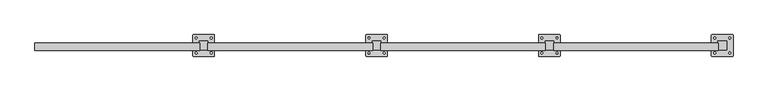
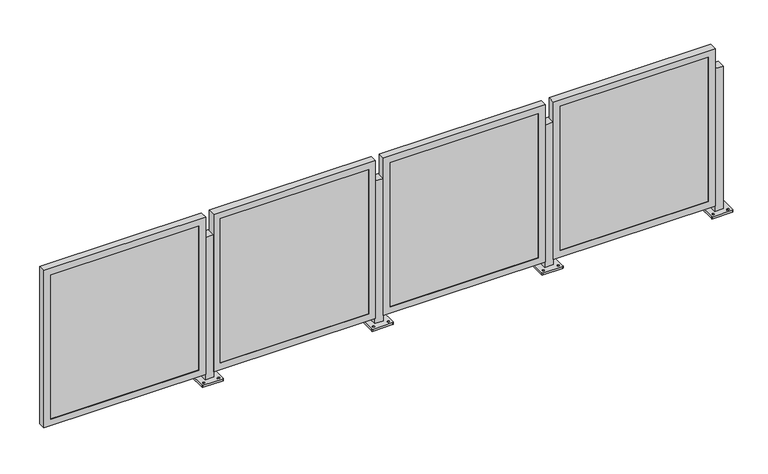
"""IFC4 building model written with IfcOpenShell, lengths in millimetres: railing geometry, Railing - Amico Architectural - Perforated Railing - Apex01."""

from ifc_helpers import new_model, si_unit, frame, origin, place, context, project, spatial, polyline, circle_curve, outline, extrude, faceted_brep, source, transform, mapped, element, save
from ifc_brep_helpers import plane_surface, cylinder_surface, revolved_surface, advanced_brep


def railing_b8a2d812(model_context):
    return source(origin(), model_context, "Body", "SolidModel", [
        advanced_brep(
        [(-22797.8818496, 7784.6872089, 914.4), (-22797.8818496, 7733.8872089, 914.4), (-22747.0818496, 7733.8872089, 914.4), (-22747.0818496, 7784.6872089, 914.4), (-22835.9818498, 7698.9622499, 0.0), (-22835.9818498, 7819.6121679, 0.0), (-22832.8068216, 7822.787196, 0.0), (-22712.1568776, 7822.787196, 0.0), (-22708.9818495, 7819.6121679, 0.0), (-22708.9818495, 7698.9622499, 0.0), (-22712.1568776, 7695.7872218, 0.0), (-22832.8068216, 7695.7872218, 0.0), (-22816.9318372, 7709.2809542, 0.0), (-22816.9318372, 7720.3934667, 0.0), (-22816.9318481, 7798.1809586, 0.0), (-22816.9318481, 7809.2934402, 0.0), (-22728.0318362, 7709.2809558, 0.0), (-22728.0318362, 7720.3934664, 0.0), (-22728.0318471, 7798.1809601, 0.0), (-22728.0318471, 7809.2934399, 0.0), (-22797.8818496, 7784.6872089, 12.7), (-22797.8818496, 7733.8872089, 12.7), (-22747.0818496, 7733.8872089, 12.7), (-22747.0818496, 7784.6872089, 12.7), (-22835.9818498, 7698.9622499, 12.7), (-22832.8068216, 7695.7872218, 12.7), (-22712.1568776, 7695.7872218, 12.7), (-22708.9818495, 7698.9622499, 12.7), (-22708.9818495, 7819.6121679, 12.7), (-22712.1568776, 7822.787196, 12.7), (-22832.8068216, 7822.787196, 12.7), (-22835.9818498, 7819.6121679, 12.7), (-22816.9318372, 7709.2809542, 12.7), (-22816.9318372, 7720.3934667, 12.7), (-22816.9318481, 7798.1809586, 12.7), (-22816.9318481, 7809.2934402, 12.7), (-22728.0318362, 7709.2809558, 12.7), (-22728.0318362, 7720.3934664, 12.7), (-22728.0318471, 7798.1809601, 12.7), (-22728.0318471, 7809.2934399, 12.7)],
        [
            (0, 1),
            (1, 2),
            (2, 3),
            (3, 0),
            (4, 5),
            (5, 6, circle_curve(frame((-22832.8068216, 7819.6121679, 0.0), z_axis=(0.0, 0.0, -1.0), x_axis=(0.0, 1.0, 0.0)), 3.1750282)),
            (6, 7),
            (7, 8, circle_curve(frame((-22712.1568776, 7819.6121679, 0.0), z_axis=(0.0, 0.0, -1.0), x_axis=(0.0, 1.0, 0.0)), 3.1750282)),
            (8, 9),
            (9, 10, circle_curve(frame((-22712.1568776, 7698.9622499, 0.0), z_axis=(0.0, 0.0, -1.0), x_axis=(0.0, 1.0, 0.0)), 3.1750282)),
            (10, 11),
            (11, 4, circle_curve(frame((-22832.8068216, 7698.9622499, 0.0), z_axis=(0.0, 0.0, -1.0), x_axis=(0.0, 1.0, 0.0)), 3.1750282)),
            (12, 13, circle_curve(frame((-22816.9318372, 7714.8372105, 0.0), z_axis=(0.0, 0.0, 1.0), x_axis=(0.0, 1.0, 0.0)), 5.5562562)),
            (13, 12, circle_curve(frame((-22816.9318372, 7714.8372105, 0.0), z_axis=(0.0, 0.0, 1.0), x_axis=(0.0, 1.0, 0.0)), 5.5562562)),
            (14, 15, circle_curve(frame((-22816.9318481, 7803.7371994, 0.0), z_axis=(0.0, 0.0, 1.0), x_axis=(0.0, 1.0, 0.0)), 5.5562408)),
            (15, 14, circle_curve(frame((-22816.9318481, 7803.7371994, 0.0), z_axis=(0.0, 0.0, 1.0), x_axis=(0.0, 1.0, 0.0)), 5.5562408)),
            (16, 17, circle_curve(frame((-22728.0318362, 7714.8372111, 0.0), z_axis=(0.0, 0.0, 1.0), x_axis=(0.0, 1.0, 0.0)), 5.5562553)),
            (17, 16, circle_curve(frame((-22728.0318362, 7714.8372111, 0.0), z_axis=(0.0, 0.0, 1.0), x_axis=(0.0, 1.0, 0.0)), 5.5562553)),
            (18, 19, circle_curve(frame((-22728.0318471, 7803.7372, 0.0), z_axis=(0.0, 0.0, 1.0), x_axis=(0.0, 1.0, 0.0)), 5.5562399)),
            (19, 18, circle_curve(frame((-22728.0318471, 7803.7372, 0.0), z_axis=(0.0, 0.0, 1.0), x_axis=(0.0, 1.0, 0.0)), 5.5562399)),
            (0, 20),
            (20, 21),
            (21, 1),
            (21, 22),
            (22, 2),
            (22, 23),
            (23, 3),
            (23, 20),
            (24, 25, circle_curve(frame((-22832.8068216, 7698.9622499, 12.7), z_axis=(0.0, 0.0, 1.0), x_axis=(0.0, 1.0, 0.0)), 3.1750282)),
            (25, 26),
            (26, 27, circle_curve(frame((-22712.1568776, 7698.9622499, 12.7), z_axis=(0.0, 0.0, 1.0), x_axis=(0.0, 1.0, 0.0)), 3.1750282)),
            (27, 28),
            (28, 29, circle_curve(frame((-22712.1568776, 7819.6121679, 12.7), z_axis=(0.0, 0.0, 1.0), x_axis=(0.0, 1.0, 0.0)), 3.1750282)),
            (29, 30),
            (30, 31, circle_curve(frame((-22832.8068216, 7819.6121679, 12.7), z_axis=(0.0, 0.0, 1.0), x_axis=(0.0, 1.0, 0.0)), 3.1750282)),
            (31, 24),
            (32, 33, circle_curve(frame((-22816.9318372, 7714.8372105, 12.7), z_axis=(0.0, 0.0, -1.0), x_axis=(0.0, 1.0, 0.0)), 5.5562562)),
            (33, 32, circle_curve(frame((-22816.9318372, 7714.8372105, 12.7), z_axis=(0.0, 0.0, -1.0), x_axis=(0.0, 1.0, 0.0)), 5.5562562)),
            (34, 35, circle_curve(frame((-22816.9318481, 7803.7371994, 12.7), z_axis=(0.0, 0.0, -1.0), x_axis=(0.0, 1.0, 0.0)), 5.5562408)),
            (35, 34, circle_curve(frame((-22816.9318481, 7803.7371994, 12.7), z_axis=(0.0, 0.0, -1.0), x_axis=(0.0, 1.0, 0.0)), 5.5562408)),
            (36, 37, circle_curve(frame((-22728.0318362, 7714.8372111, 12.7), z_axis=(0.0, 0.0, -1.0), x_axis=(0.0, 1.0, 0.0)), 5.5562553)),
            (37, 36, circle_curve(frame((-22728.0318362, 7714.8372111, 12.7), z_axis=(0.0, 0.0, -1.0), x_axis=(0.0, 1.0, 0.0)), 5.5562553)),
            (38, 39, circle_curve(frame((-22728.0318471, 7803.7372, 12.7), z_axis=(0.0, 0.0, -1.0), x_axis=(0.0, 1.0, 0.0)), 5.5562399)),
            (39, 38, circle_curve(frame((-22728.0318471, 7803.7372, 12.7), z_axis=(0.0, 0.0, -1.0), x_axis=(0.0, 1.0, 0.0)), 5.5562399)),
            (24, 4),
            (11, 25),
            (10, 26),
            (9, 27),
            (8, 28),
            (7, 29),
            (6, 30),
            (5, 31),
            (32, 12),
            (13, 33),
            (34, 14),
            (15, 35),
            (36, 16),
            (17, 37),
            (38, 18),
            (19, 39),
        ],
        [
            plane_surface(frame((-22797.8818496, 7733.8872089, 914.4), z_axis=(0.0, 0.0, 1.0), x_axis=(0.0, -1.0, 0.0))),
            plane_surface(frame((-22797.8818496, 7733.8872089, 0.0), z_axis=(0.0, 0.0, -1.0), x_axis=(0.0, 1.0, 0.0))),
            plane_surface(frame((-22797.8818496, 7784.6872089, 914.4), z_axis=(-1.0, 0.0, 0.0), x_axis=(0.0, 0.0, -1.0))),
            plane_surface(frame((-22797.8818496, 7733.8872089, 914.4), z_axis=(0.0, -1.0, 0.0), x_axis=(0.0, 0.0, -1.0))),
            plane_surface(frame((-22747.0818496, 7733.8872089, 914.4), z_axis=(1.0, 0.0, 0.0), x_axis=(0.0, 0.0, -1.0))),
            plane_surface(frame((-22747.0818496, 7784.6872089, 914.4), z_axis=(0.0, 1.0, 0.0), x_axis=(0.0, 0.0, -1.0))),
            plane_surface(frame((-22832.8068216, 7702.1372781, 12.7), z_axis=(0.0, 0.0, 1.0), x_axis=(-1.0, 0.0, 0.0))),
            cylinder_surface(frame((-22832.8068216, 7698.9622499, 0.0), z_axis=(0.0, 0.0, 1.0), x_axis=(0.0, 1.0, 0.0)), 3.1750282),
            plane_surface(frame((-22832.8068216, 7695.7872218, 12.7), z_axis=(1.1945386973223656e-12, -1.0, 0.0), x_axis=(0.0, 0.0, -1.0))),
            cylinder_surface(frame((-22712.1568776, 7698.9622499, 0.0), z_axis=(0.0, 0.0, 1.0), x_axis=(0.0, 1.0, 0.0)), 3.1750282),
            plane_surface(frame((-22708.9818495, 7698.9622499, 12.7), z_axis=(1.0, 0.0, 0.0), x_axis=(0.0, 0.0, -1.0))),
            cylinder_surface(frame((-22712.1568776, 7819.6121679, 0.0), z_axis=(0.0, 0.0, 1.0), x_axis=(0.0, 1.0, 0.0)), 3.1750282),
            plane_surface(frame((-22712.1568776, 7822.787196, 12.7), z_axis=(-1.1946088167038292e-12, 1.0, 0.0), x_axis=(0.0, 0.0, -1.0))),
            cylinder_surface(frame((-22832.8068216, 7819.6121679, 0.0), z_axis=(0.0, 0.0, 1.0), x_axis=(0.0, 1.0, 0.0)), 3.1750282),
            plane_surface(frame((-22835.9818498, 7819.6121679, 12.7), z_axis=(-1.0, 0.0, 0.0), x_axis=(0.0, 0.0, -1.0))),
            revolved_surface(polyline([(-22816.9318372, 7720.393466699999, 0.0), (-22816.9318372, 7720.393466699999, 12.7)]), (-22816.9318372, 7714.8372105, 0.0), (0.0, 0.0, -1.0)),
            revolved_surface(polyline([(-22816.9318481, 7809.293440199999, 0.0), (-22816.9318481, 7809.293440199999, 12.7)]), (-22816.9318481, 7803.7371994, 0.0), (0.0, 0.0, -1.0)),
            revolved_surface(polyline([(-22728.0318362, 7720.3934664, 0.0), (-22728.0318362, 7720.3934664, 12.7)]), (-22728.0318362, 7714.8372111, 0.0), (0.0, 0.0, -1.0)),
            revolved_surface(polyline([(-22728.0318471, 7809.2934399, 0.0), (-22728.0318471, 7809.2934399, 12.7)]), (-22728.0318471, 7803.7372, 0.0), (0.0, 0.0, -1.0)),
        ],
        [
            (0, [[1, 2, 3, 4]]),
            (1, [[5, 6, 7, 8, 9, 10, 11, 12], [13, 14], [15, 16], [17, 18], [19, 20]]),
            (2, [[-1, 21, 22, 23]]),
            (3, [[-2, -23, 24, 25]]),
            (4, [[-3, -25, 26, 27]]),
            (5, [[-4, -27, 28, -21]]),
            (6, [[29, 30, 31, 32, 33, 34, 35, 36], [-22, -28, -26, -24], [37, 38], [39, 40], [41, 42], [43, 44]]),
            (7, [[-29, 45, -12, 46]]),
            (8, [[-30, -46, -11, 47]]),
            (9, [[-31, -47, -10, 48]]),
            (10, [[-32, -48, -9, 49]]),
            (11, [[-33, -49, -8, 50]]),
            (12, [[-34, -50, -7, 51]]),
            (13, [[-35, -51, -6, 52]]),
            (14, [[-36, -52, -5, -45]]),
            (15, [[-37, 53, -14, 54]]),
            (15, [[-38, -54, -13, -53]]),
            (16, [[-39, 55, -16, 56]]),
            (16, [[-40, -56, -15, -55]]),
            (17, [[-41, 57, -18, 58]]),
            (17, [[-42, -58, -17, -57]]),
            (18, [[-43, 59, -20, 60]]),
            (18, [[-44, -60, -19, -59]]),
        ],
    ),
        faceted_brep([(-23764.286303, 7731.1440089, 47.625), (-22795.911303, 7731.1440089, 47.625), (-22795.911303, 7731.1440089, 1044.575), (-23764.286303, 7731.1440089, 1044.575), (-23723.011303, 7731.1440089, 1003.3), (-22837.186303, 7731.1440089, 1003.3), (-22837.186303, 7731.1440089, 88.9), (-23723.011303, 7731.1440089, 88.9), (-23723.011303, 7733.8872089, 1003.3), (-23723.011303, 7733.8872089, 88.9), (-23764.286303, 7775.0173054, 1044.575), (-23764.286303, 7775.0173054, 47.625), (-23761.111303, 7775.0173054, 1041.4), (-23761.111303, 7733.8872089, 1041.4), (-23761.111303, 7733.8872089, 50.8), (-23761.111303, 7775.0173054, 50.8), (-22837.186303, 7733.8872089, 88.9), (-22795.911303, 7775.0173054, 47.625), (-22799.086303, 7733.8872089, 50.8), (-22799.086303, 7775.0173054, 50.8), (-22837.186303, 7733.8872089, 1003.3), (-22795.911303, 7775.0173054, 1044.575), (-22799.086303, 7733.8872089, 1041.4), (-22799.086303, 7775.0173054, 1041.4)], [[[0, 1, 2, 3], [4, 5, 6, 7]], [[8, 4, 7, 9]], [[3, 10, 11, 0]], [[12, 13, 14, 15]], [[9, 7, 6, 16]], [[0, 11, 17, 1]], [[15, 14, 18, 19]], [[16, 6, 5, 20]], [[1, 17, 21, 2]], [[19, 18, 22, 23]], [[20, 5, 4, 8]], [[10, 21, 17, 11], [15, 19, 23, 12]], [[2, 21, 10, 3]], [[13, 22, 18, 14], [9, 16, 20, 8]], [[23, 22, 13, 12]]]),
        extrude(outline(polyline([(-23761.111303, 7743.4122089), (-22799.086303, 7743.4122089), (-22799.086303, 7733.8872089), (-23761.111303, 7733.8872089), (-23761.111303, 7743.4122089)])), frame((0.0, 0.0, 50.8), z_axis=(0.0, 0.0, 1.0), x_axis=(1.0, 0.0, 0.0)), (0.0, 0.0, 1.0), 990.6),
        advanced_brep(
        [(-23813.8818496, 7784.6872089, 914.4), (-23813.8818496, 7733.8872089, 914.4), (-23763.0818496, 7733.8872089, 914.4), (-23763.0818496, 7784.6872089, 914.4), (-23851.9818498, 7698.9622499, 0.0), (-23851.9818498, 7819.6121679, 0.0), (-23848.8068216, 7822.787196, 0.0), (-23728.1568776, 7822.787196, 0.0), (-23724.9818495, 7819.6121679, 0.0), (-23724.9818495, 7698.9622499, 0.0), (-23728.1568776, 7695.7872218, 0.0), (-23848.8068216, 7695.7872218, 0.0), (-23832.9318372, 7709.2809542, 0.0), (-23832.9318372, 7720.3934667, 0.0), (-23832.9318481, 7798.1809586, 0.0), (-23832.9318481, 7809.2934402, 0.0), (-23744.0318362, 7709.2809558, 0.0), (-23744.0318362, 7720.3934664, 0.0), (-23744.0318471, 7798.1809601, 0.0), (-23744.0318471, 7809.2934399, 0.0), (-23813.8818496, 7784.6872089, 12.7), (-23813.8818496, 7733.8872089, 12.7), (-23763.0818496, 7733.8872089, 12.7), (-23763.0818496, 7784.6872089, 12.7), (-23851.9818498, 7698.9622499, 12.7), (-23848.8068216, 7695.7872218, 12.7), (-23728.1568776, 7695.7872218, 12.7), (-23724.9818495, 7698.9622499, 12.7), (-23724.9818495, 7819.6121679, 12.7), (-23728.1568776, 7822.787196, 12.7), (-23848.8068216, 7822.787196, 12.7), (-23851.9818498, 7819.6121679, 12.7), (-23832.9318372, 7709.2809542, 12.7), (-23832.9318372, 7720.3934667, 12.7), (-23832.9318481, 7798.1809586, 12.7), (-23832.9318481, 7809.2934402, 12.7), (-23744.0318362, 7709.2809558, 12.7), (-23744.0318362, 7720.3934664, 12.7), (-23744.0318471, 7798.1809601, 12.7), (-23744.0318471, 7809.2934399, 12.7)],
        [
            (0, 1),
            (1, 2),
            (2, 3),
            (3, 0),
            (4, 5),
            (5, 6, circle_curve(frame((-23848.8068216, 7819.6121679, 0.0), z_axis=(0.0, 0.0, -1.0), x_axis=(0.0, 1.0, 0.0)), 3.1750282)),
            (6, 7),
            (7, 8, circle_curve(frame((-23728.1568776, 7819.6121679, 0.0), z_axis=(0.0, 0.0, -1.0), x_axis=(0.0, 1.0, 0.0)), 3.1750282)),
            (8, 9),
            (9, 10, circle_curve(frame((-23728.1568776, 7698.9622499, 0.0), z_axis=(0.0, 0.0, -1.0), x_axis=(0.0, 1.0, 0.0)), 3.1750282)),
            (10, 11),
            (11, 4, circle_curve(frame((-23848.8068216, 7698.9622499, 0.0), z_axis=(0.0, 0.0, -1.0), x_axis=(0.0, 1.0, 0.0)), 3.1750282)),
            (12, 13, circle_curve(frame((-23832.9318372, 7714.8372105, 0.0), z_axis=(0.0, 0.0, 1.0), x_axis=(0.0, 1.0, 0.0)), 5.5562562)),
            (13, 12, circle_curve(frame((-23832.9318372, 7714.8372105, 0.0), z_axis=(0.0, 0.0, 1.0), x_axis=(0.0, 1.0, 0.0)), 5.5562562)),
            (14, 15, circle_curve(frame((-23832.9318481, 7803.7371994, 0.0), z_axis=(0.0, 0.0, 1.0), x_axis=(0.0, 1.0, 0.0)), 5.5562408)),
            (15, 14, circle_curve(frame((-23832.9318481, 7803.7371994, 0.0), z_axis=(0.0, 0.0, 1.0), x_axis=(0.0, 1.0, 0.0)), 5.5562408)),
            (16, 17, circle_curve(frame((-23744.0318362, 7714.8372111, 0.0), z_axis=(0.0, 0.0, 1.0), x_axis=(0.0, 1.0, 0.0)), 5.5562553)),
            (17, 16, circle_curve(frame((-23744.0318362, 7714.8372111, 0.0), z_axis=(0.0, 0.0, 1.0), x_axis=(0.0, 1.0, 0.0)), 5.5562553)),
            (18, 19, circle_curve(frame((-23744.0318471, 7803.7372, 0.0), z_axis=(0.0, 0.0, 1.0), x_axis=(0.0, 1.0, 0.0)), 5.5562399)),
            (19, 18, circle_curve(frame((-23744.0318471, 7803.7372, 0.0), z_axis=(0.0, 0.0, 1.0), x_axis=(0.0, 1.0, 0.0)), 5.5562399)),
            (0, 20),
            (20, 21),
            (21, 1),
            (21, 22),
            (22, 2),
            (22, 23),
            (23, 3),
            (23, 20),
            (24, 25, circle_curve(frame((-23848.8068216, 7698.9622499, 12.7), z_axis=(0.0, 0.0, 1.0), x_axis=(0.0, 1.0, 0.0)), 3.1750282)),
            (25, 26),
            (26, 27, circle_curve(frame((-23728.1568776, 7698.9622499, 12.7), z_axis=(0.0, 0.0, 1.0), x_axis=(0.0, 1.0, 0.0)), 3.1750282)),
            (27, 28),
            (28, 29, circle_curve(frame((-23728.1568776, 7819.6121679, 12.7), z_axis=(0.0, 0.0, 1.0), x_axis=(0.0, 1.0, 0.0)), 3.1750282)),
            (29, 30),
            (30, 31, circle_curve(frame((-23848.8068216, 7819.6121679, 12.7), z_axis=(0.0, 0.0, 1.0), x_axis=(0.0, 1.0, 0.0)), 3.1750282)),
            (31, 24),
            (32, 33, circle_curve(frame((-23832.9318372, 7714.8372105, 12.7), z_axis=(0.0, 0.0, -1.0), x_axis=(0.0, 1.0, 0.0)), 5.5562562)),
            (33, 32, circle_curve(frame((-23832.9318372, 7714.8372105, 12.7), z_axis=(0.0, 0.0, -1.0), x_axis=(0.0, 1.0, 0.0)), 5.5562562)),
            (34, 35, circle_curve(frame((-23832.9318481, 7803.7371994, 12.7), z_axis=(0.0, 0.0, -1.0), x_axis=(0.0, 1.0, 0.0)), 5.5562408)),
            (35, 34, circle_curve(frame((-23832.9318481, 7803.7371994, 12.7), z_axis=(0.0, 0.0, -1.0), x_axis=(0.0, 1.0, 0.0)), 5.5562408)),
            (36, 37, circle_curve(frame((-23744.0318362, 7714.8372111, 12.7), z_axis=(0.0, 0.0, -1.0), x_axis=(0.0, 1.0, 0.0)), 5.5562553)),
            (37, 36, circle_curve(frame((-23744.0318362, 7714.8372111, 12.7), z_axis=(0.0, 0.0, -1.0), x_axis=(0.0, 1.0, 0.0)), 5.5562553)),
            (38, 39, circle_curve(frame((-23744.0318471, 7803.7372, 12.7), z_axis=(0.0, 0.0, -1.0), x_axis=(0.0, 1.0, 0.0)), 5.5562399)),
            (39, 38, circle_curve(frame((-23744.0318471, 7803.7372, 12.7), z_axis=(0.0, 0.0, -1.0), x_axis=(0.0, 1.0, 0.0)), 5.5562399)),
            (24, 4),
            (11, 25),
            (10, 26),
            (9, 27),
            (8, 28),
            (7, 29),
            (6, 30),
            (5, 31),
            (32, 12),
            (13, 33),
            (34, 14),
            (15, 35),
            (36, 16),
            (17, 37),
            (38, 18),
            (19, 39),
        ],
        [
            plane_surface(frame((-23813.8818496, 7733.8872089, 914.4), z_axis=(0.0, 0.0, 1.0), x_axis=(0.0, -1.0, 0.0))),
            plane_surface(frame((-23813.8818496, 7733.8872089, 0.0), z_axis=(0.0, 0.0, -1.0), x_axis=(0.0, 1.0, 0.0))),
            plane_surface(frame((-23813.8818496, 7784.6872089, 914.4), z_axis=(-1.0, 0.0, 0.0), x_axis=(0.0, 0.0, -1.0))),
            plane_surface(frame((-23813.8818496, 7733.8872089, 914.4), z_axis=(0.0, -1.0, 0.0), x_axis=(0.0, 0.0, -1.0))),
            plane_surface(frame((-23763.0818496, 7733.8872089, 914.4), z_axis=(1.0, 0.0, 0.0), x_axis=(0.0, 0.0, -1.0))),
            plane_surface(frame((-23763.0818496, 7784.6872089, 914.4), z_axis=(0.0, 1.0, 0.0), x_axis=(0.0, 0.0, -1.0))),
            plane_surface(frame((-23848.8068216, 7702.1372781, 12.7), z_axis=(0.0, 0.0, 1.0), x_axis=(-1.0, 0.0, 0.0))),
            cylinder_surface(frame((-23848.8068216, 7698.9622499, 0.0), z_axis=(0.0, 0.0, 1.0), x_axis=(0.0, 1.0, 0.0)), 3.1750282),
            plane_surface(frame((-23848.8068216, 7695.7872218, 12.7), z_axis=(1.1945386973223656e-12, -1.0, 0.0), x_axis=(0.0, 0.0, -1.0))),
            cylinder_surface(frame((-23728.1568776, 7698.9622499, 0.0), z_axis=(0.0, 0.0, 1.0), x_axis=(0.0, 1.0, 0.0)), 3.1750282),
            plane_surface(frame((-23724.9818495, 7698.9622499, 12.7), z_axis=(1.0, 0.0, 0.0), x_axis=(0.0, 0.0, -1.0))),
            cylinder_surface(frame((-23728.1568776, 7819.6121679, 0.0), z_axis=(0.0, 0.0, 1.0), x_axis=(0.0, 1.0, 0.0)), 3.1750282),
            plane_surface(frame((-23728.1568776, 7822.787196, 12.7), z_axis=(-1.1946088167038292e-12, 1.0, 0.0), x_axis=(0.0, 0.0, -1.0))),
            cylinder_surface(frame((-23848.8068216, 7819.6121679, 0.0), z_axis=(0.0, 0.0, 1.0), x_axis=(0.0, 1.0, 0.0)), 3.1750282),
            plane_surface(frame((-23851.9818498, 7819.6121679, 12.7), z_axis=(-1.0, 0.0, 0.0), x_axis=(0.0, 0.0, -1.0))),
            revolved_surface(polyline([(-23832.9318372, 7720.393466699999, 0.0), (-23832.9318372, 7720.393466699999, 12.7)]), (-23832.9318372, 7714.8372105, 0.0), (0.0, 0.0, -1.0)),
            revolved_surface(polyline([(-23832.9318481, 7809.293440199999, 0.0), (-23832.9318481, 7809.293440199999, 12.7)]), (-23832.9318481, 7803.7371994, 0.0), (0.0, 0.0, -1.0)),
            revolved_surface(polyline([(-23744.0318362, 7720.3934664, 0.0), (-23744.0318362, 7720.3934664, 12.7)]), (-23744.0318362, 7714.8372111, 0.0), (0.0, 0.0, -1.0)),
            revolved_surface(polyline([(-23744.0318471, 7809.2934399, 0.0), (-23744.0318471, 7809.2934399, 12.7)]), (-23744.0318471, 7803.7372, 0.0), (0.0, 0.0, -1.0)),
        ],
        [
            (0, [[1, 2, 3, 4]]),
            (1, [[5, 6, 7, 8, 9, 10, 11, 12], [13, 14], [15, 16], [17, 18], [19, 20]]),
            (2, [[-1, 21, 22, 23]]),
            (3, [[-2, -23, 24, 25]]),
            (4, [[-3, -25, 26, 27]]),
            (5, [[-4, -27, 28, -21]]),
            (6, [[29, 30, 31, 32, 33, 34, 35, 36], [-22, -28, -26, -24], [37, 38], [39, 40], [41, 42], [43, 44]]),
            (7, [[-29, 45, -12, 46]]),
            (8, [[-30, -46, -11, 47]]),
            (9, [[-31, -47, -10, 48]]),
            (10, [[-32, -48, -9, 49]]),
            (11, [[-33, -49, -8, 50]]),
            (12, [[-34, -50, -7, 51]]),
            (13, [[-35, -51, -6, 52]]),
            (14, [[-36, -52, -5, -45]]),
            (15, [[-37, 53, -14, 54]]),
            (15, [[-38, -54, -13, -53]]),
            (16, [[-39, 55, -16, 56]]),
            (16, [[-40, -56, -15, -55]]),
            (17, [[-41, 57, -18, 58]]),
            (17, [[-42, -58, -17, -57]]),
            (18, [[-43, 59, -20, 60]]),
            (18, [[-44, -60, -19, -59]]),
        ],
    ),
        faceted_brep([(-24780.286303, 7731.1440089, 47.625), (-23811.911303, 7731.1440089, 47.625), (-23811.911303, 7731.1440089, 1044.575), (-24780.286303, 7731.1440089, 1044.575), (-24739.011303, 7731.1440089, 1003.3), (-23853.186303, 7731.1440089, 1003.3), (-23853.186303, 7731.1440089, 88.9), (-24739.011303, 7731.1440089, 88.9), (-24739.011303, 7733.8872089, 1003.3), (-24739.011303, 7733.8872089, 88.9), (-24780.286303, 7775.0173054, 1044.575), (-24780.286303, 7775.0173054, 47.625), (-24777.111303, 7775.0173054, 1041.4), (-24777.111303, 7733.8872089, 1041.4), (-24777.111303, 7733.8872089, 50.8), (-24777.111303, 7775.0173054, 50.8), (-23853.186303, 7733.8872089, 88.9), (-23811.911303, 7775.0173054, 47.625), (-23815.086303, 7733.8872089, 50.8), (-23815.086303, 7775.0173054, 50.8), (-23853.186303, 7733.8872089, 1003.3), (-23811.911303, 7775.0173054, 1044.575), (-23815.086303, 7733.8872089, 1041.4), (-23815.086303, 7775.0173054, 1041.4)], [[[0, 1, 2, 3], [4, 5, 6, 7]], [[8, 4, 7, 9]], [[3, 10, 11, 0]], [[12, 13, 14, 15]], [[9, 7, 6, 16]], [[0, 11, 17, 1]], [[15, 14, 18, 19]], [[16, 6, 5, 20]], [[1, 17, 21, 2]], [[19, 18, 22, 23]], [[20, 5, 4, 8]], [[10, 21, 17, 11], [15, 19, 23, 12]], [[2, 21, 10, 3]], [[13, 22, 18, 14], [9, 16, 20, 8]], [[23, 22, 13, 12]]]),
        extrude(outline(polyline([(-24777.111303, 7743.4122089), (-23815.086303, 7743.4122089), (-23815.086303, 7733.8872089), (-24777.111303, 7733.8872089), (-24777.111303, 7743.4122089)])), frame((0.0, 0.0, 50.8), z_axis=(0.0, 0.0, 1.0), x_axis=(1.0, 0.0, 0.0)), (0.0, 0.0, 1.0), 990.6),
        advanced_brep(
        [(-24829.8818496, 7784.6872089, 914.4), (-24829.8818496, 7733.8872089, 914.4), (-24779.0818496, 7733.8872089, 914.4), (-24779.0818496, 7784.6872089, 914.4), (-24867.9818498, 7698.9622499, 0.0), (-24867.9818498, 7819.6121679, 0.0), (-24864.8068216, 7822.787196, 0.0), (-24744.1568776, 7822.787196, 0.0), (-24740.9818495, 7819.6121679, 0.0), (-24740.9818495, 7698.9622499, 0.0), (-24744.1568776, 7695.7872218, 0.0), (-24864.8068216, 7695.7872218, 0.0), (-24848.9318372, 7709.2809542, 0.0), (-24848.9318372, 7720.3934667, 0.0), (-24848.9318481, 7798.1809586, 0.0), (-24848.9318481, 7809.2934402, 0.0), (-24760.0318362, 7709.2809558, 0.0), (-24760.0318362, 7720.3934664, 0.0), (-24760.0318471, 7798.1809601, 0.0), (-24760.0318471, 7809.2934399, 0.0), (-24829.8818496, 7784.6872089, 12.7), (-24829.8818496, 7733.8872089, 12.7), (-24779.0818496, 7733.8872089, 12.7), (-24779.0818496, 7784.6872089, 12.7), (-24867.9818498, 7698.9622499, 12.7), (-24864.8068216, 7695.7872218, 12.7), (-24744.1568776, 7695.7872218, 12.7), (-24740.9818495, 7698.9622499, 12.7), (-24740.9818495, 7819.6121679, 12.7), (-24744.1568776, 7822.787196, 12.7), (-24864.8068216, 7822.787196, 12.7), (-24867.9818498, 7819.6121679, 12.7), (-24848.9318372, 7709.2809542, 12.7), (-24848.9318372, 7720.3934667, 12.7), (-24848.9318481, 7798.1809586, 12.7), (-24848.9318481, 7809.2934402, 12.7), (-24760.0318362, 7709.2809558, 12.7), (-24760.0318362, 7720.3934664, 12.7), (-24760.0318471, 7798.1809601, 12.7), (-24760.0318471, 7809.2934399, 12.7)],
        [
            (0, 1),
            (1, 2),
            (2, 3),
            (3, 0),
            (4, 5),
            (5, 6, circle_curve(frame((-24864.8068216, 7819.6121679, 0.0), z_axis=(0.0, 0.0, -1.0), x_axis=(0.0, 1.0, 0.0)), 3.1750282)),
            (6, 7),
            (7, 8, circle_curve(frame((-24744.1568776, 7819.6121679, 0.0), z_axis=(0.0, 0.0, -1.0), x_axis=(0.0, 1.0, 0.0)), 3.1750282)),
            (8, 9),
            (9, 10, circle_curve(frame((-24744.1568776, 7698.9622499, 0.0), z_axis=(0.0, 0.0, -1.0), x_axis=(0.0, 1.0, 0.0)), 3.1750282)),
            (10, 11),
            (11, 4, circle_curve(frame((-24864.8068216, 7698.9622499, 0.0), z_axis=(0.0, 0.0, -1.0), x_axis=(0.0, 1.0, 0.0)), 3.1750282)),
            (12, 13, circle_curve(frame((-24848.9318372, 7714.8372105, 0.0), z_axis=(0.0, 0.0, 1.0), x_axis=(0.0, 1.0, 0.0)), 5.5562562)),
            (13, 12, circle_curve(frame((-24848.9318372, 7714.8372105, 0.0), z_axis=(0.0, 0.0, 1.0), x_axis=(0.0, 1.0, 0.0)), 5.5562562)),
            (14, 15, circle_curve(frame((-24848.9318481, 7803.7371994, 0.0), z_axis=(0.0, 0.0, 1.0), x_axis=(0.0, 1.0, 0.0)), 5.5562408)),
            (15, 14, circle_curve(frame((-24848.9318481, 7803.7371994, 0.0), z_axis=(0.0, 0.0, 1.0), x_axis=(0.0, 1.0, 0.0)), 5.5562408)),
            (16, 17, circle_curve(frame((-24760.0318362, 7714.8372111, 0.0), z_axis=(0.0, 0.0, 1.0), x_axis=(0.0, 1.0, 0.0)), 5.5562553)),
            (17, 16, circle_curve(frame((-24760.0318362, 7714.8372111, 0.0), z_axis=(0.0, 0.0, 1.0), x_axis=(0.0, 1.0, 0.0)), 5.5562553)),
            (18, 19, circle_curve(frame((-24760.0318471, 7803.7372, 0.0), z_axis=(0.0, 0.0, 1.0), x_axis=(0.0, 1.0, 0.0)), 5.5562399)),
            (19, 18, circle_curve(frame((-24760.0318471, 7803.7372, 0.0), z_axis=(0.0, 0.0, 1.0), x_axis=(0.0, 1.0, 0.0)), 5.5562399)),
            (0, 20),
            (20, 21),
            (21, 1),
            (21, 22),
            (22, 2),
            (22, 23),
            (23, 3),
            (23, 20),
            (24, 25, circle_curve(frame((-24864.8068216, 7698.9622499, 12.7), z_axis=(0.0, 0.0, 1.0), x_axis=(0.0, 1.0, 0.0)), 3.1750282)),
            (25, 26),
            (26, 27, circle_curve(frame((-24744.1568776, 7698.9622499, 12.7), z_axis=(0.0, 0.0, 1.0), x_axis=(0.0, 1.0, 0.0)), 3.1750282)),
            (27, 28),
            (28, 29, circle_curve(frame((-24744.1568776, 7819.6121679, 12.7), z_axis=(0.0, 0.0, 1.0), x_axis=(0.0, 1.0, 0.0)), 3.1750282)),
            (29, 30),
            (30, 31, circle_curve(frame((-24864.8068216, 7819.6121679, 12.7), z_axis=(0.0, 0.0, 1.0), x_axis=(0.0, 1.0, 0.0)), 3.1750282)),
            (31, 24),
            (32, 33, circle_curve(frame((-24848.9318372, 7714.8372105, 12.7), z_axis=(0.0, 0.0, -1.0), x_axis=(0.0, 1.0, 0.0)), 5.5562562)),
            (33, 32, circle_curve(frame((-24848.9318372, 7714.8372105, 12.7), z_axis=(0.0, 0.0, -1.0), x_axis=(0.0, 1.0, 0.0)), 5.5562562)),
            (34, 35, circle_curve(frame((-24848.9318481, 7803.7371994, 12.7), z_axis=(0.0, 0.0, -1.0), x_axis=(0.0, 1.0, 0.0)), 5.5562408)),
            (35, 34, circle_curve(frame((-24848.9318481, 7803.7371994, 12.7), z_axis=(0.0, 0.0, -1.0), x_axis=(0.0, 1.0, 0.0)), 5.5562408)),
            (36, 37, circle_curve(frame((-24760.0318362, 7714.8372111, 12.7), z_axis=(0.0, 0.0, -1.0), x_axis=(0.0, 1.0, 0.0)), 5.5562553)),
            (37, 36, circle_curve(frame((-24760.0318362, 7714.8372111, 12.7), z_axis=(0.0, 0.0, -1.0), x_axis=(0.0, 1.0, 0.0)), 5.5562553)),
            (38, 39, circle_curve(frame((-24760.0318471, 7803.7372, 12.7), z_axis=(0.0, 0.0, -1.0), x_axis=(0.0, 1.0, 0.0)), 5.5562399)),
            (39, 38, circle_curve(frame((-24760.0318471, 7803.7372, 12.7), z_axis=(0.0, 0.0, -1.0), x_axis=(0.0, 1.0, 0.0)), 5.5562399)),
            (24, 4),
            (11, 25),
            (10, 26),
            (9, 27),
            (8, 28),
            (7, 29),
            (6, 30),
            (5, 31),
            (32, 12),
            (13, 33),
            (34, 14),
            (15, 35),
            (36, 16),
            (17, 37),
            (38, 18),
            (19, 39),
        ],
        [
            plane_surface(frame((-24829.8818496, 7733.8872089, 914.4), z_axis=(0.0, 0.0, 1.0), x_axis=(0.0, -1.0, 0.0))),
            plane_surface(frame((-24829.8818496, 7733.8872089, 0.0), z_axis=(0.0, 0.0, -1.0), x_axis=(0.0, 1.0, 0.0))),
            plane_surface(frame((-24829.8818496, 7784.6872089, 914.4), z_axis=(-1.0, 0.0, 0.0), x_axis=(0.0, 0.0, -1.0))),
            plane_surface(frame((-24829.8818496, 7733.8872089, 914.4), z_axis=(0.0, -1.0, 0.0), x_axis=(0.0, 0.0, -1.0))),
            plane_surface(frame((-24779.0818496, 7733.8872089, 914.4), z_axis=(1.0, 0.0, 0.0), x_axis=(0.0, 0.0, -1.0))),
            plane_surface(frame((-24779.0818496, 7784.6872089, 914.4), z_axis=(0.0, 1.0, 0.0), x_axis=(0.0, 0.0, -1.0))),
            plane_surface(frame((-24864.8068216, 7702.1372781, 12.7), z_axis=(0.0, 0.0, 1.0), x_axis=(-1.0, 0.0, 0.0))),
            cylinder_surface(frame((-24864.8068216, 7698.9622499, 0.0), z_axis=(0.0, 0.0, 1.0), x_axis=(0.0, 1.0, 0.0)), 3.1750282),
            plane_surface(frame((-24864.8068216, 7695.7872218, 12.7), z_axis=(1.1945386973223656e-12, -1.0, 0.0), x_axis=(0.0, 0.0, -1.0))),
            cylinder_surface(frame((-24744.1568776, 7698.9622499, 0.0), z_axis=(0.0, 0.0, 1.0), x_axis=(0.0, 1.0, 0.0)), 3.1750282),
            plane_surface(frame((-24740.9818495, 7698.9622499, 12.7), z_axis=(1.0, 0.0, 0.0), x_axis=(0.0, 0.0, -1.0))),
            cylinder_surface(frame((-24744.1568776, 7819.6121679, 0.0), z_axis=(0.0, 0.0, 1.0), x_axis=(0.0, 1.0, 0.0)), 3.1750282),
            plane_surface(frame((-24744.1568776, 7822.787196, 12.7), z_axis=(-1.1946088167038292e-12, 1.0, 0.0), x_axis=(0.0, 0.0, -1.0))),
            cylinder_surface(frame((-24864.8068216, 7819.6121679, 0.0), z_axis=(0.0, 0.0, 1.0), x_axis=(0.0, 1.0, 0.0)), 3.1750282),
            plane_surface(frame((-24867.9818498, 7819.6121679, 12.7), z_axis=(-1.0, 0.0, 0.0), x_axis=(0.0, 0.0, -1.0))),
            revolved_surface(polyline([(-24848.9318372, 7720.393466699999, 0.0), (-24848.9318372, 7720.393466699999, 12.7)]), (-24848.9318372, 7714.8372105, 0.0), (0.0, 0.0, -1.0)),
            revolved_surface(polyline([(-24848.9318481, 7809.293440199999, 0.0), (-24848.9318481, 7809.293440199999, 12.7)]), (-24848.9318481, 7803.7371994, 0.0), (0.0, 0.0, -1.0)),
            revolved_surface(polyline([(-24760.0318362, 7720.3934664, 0.0), (-24760.0318362, 7720.3934664, 12.7)]), (-24760.0318362, 7714.8372111, 0.0), (0.0, 0.0, -1.0)),
            revolved_surface(polyline([(-24760.0318471, 7809.2934399, 0.0), (-24760.0318471, 7809.2934399, 12.7)]), (-24760.0318471, 7803.7372, 0.0), (0.0, 0.0, -1.0)),
        ],
        [
            (0, [[1, 2, 3, 4]]),
            (1, [[5, 6, 7, 8, 9, 10, 11, 12], [13, 14], [15, 16], [17, 18], [19, 20]]),
            (2, [[-1, 21, 22, 23]]),
            (3, [[-2, -23, 24, 25]]),
            (4, [[-3, -25, 26, 27]]),
            (5, [[-4, -27, 28, -21]]),
            (6, [[29, 30, 31, 32, 33, 34, 35, 36], [-22, -28, -26, -24], [37, 38], [39, 40], [41, 42], [43, 44]]),
            (7, [[-29, 45, -12, 46]]),
            (8, [[-30, -46, -11, 47]]),
            (9, [[-31, -47, -10, 48]]),
            (10, [[-32, -48, -9, 49]]),
            (11, [[-33, -49, -8, 50]]),
            (12, [[-34, -50, -7, 51]]),
            (13, [[-35, -51, -6, 52]]),
            (14, [[-36, -52, -5, -45]]),
            (15, [[-37, 53, -14, 54]]),
            (15, [[-38, -54, -13, -53]]),
            (16, [[-39, 55, -16, 56]]),
            (16, [[-40, -56, -15, -55]]),
            (17, [[-41, 57, -18, 58]]),
            (17, [[-42, -58, -17, -57]]),
            (18, [[-43, 59, -20, 60]]),
            (18, [[-44, -60, -19, -59]]),
        ],
    ),
        faceted_brep([(-25796.286303, 7731.1440089, 47.625), (-24827.911303, 7731.1440089, 47.625), (-24827.911303, 7731.1440089, 1044.575), (-25796.286303, 7731.1440089, 1044.575), (-25755.011303, 7731.1440089, 1003.3), (-24869.186303, 7731.1440089, 1003.3), (-24869.186303, 7731.1440089, 88.9), (-25755.011303, 7731.1440089, 88.9), (-25755.011303, 7733.8872089, 1003.3), (-25755.011303, 7733.8872089, 88.9), (-25796.286303, 7775.0173054, 1044.575), (-25796.286303, 7775.0173054, 47.625), (-25793.111303, 7775.0173054, 1041.4), (-25793.111303, 7733.8872089, 1041.4), (-25793.111303, 7733.8872089, 50.8), (-25793.111303, 7775.0173054, 50.8), (-24869.186303, 7733.8872089, 88.9), (-24827.911303, 7775.0173054, 47.625), (-24831.086303, 7733.8872089, 50.8), (-24831.086303, 7775.0173054, 50.8), (-24869.186303, 7733.8872089, 1003.3), (-24827.911303, 7775.0173054, 1044.575), (-24831.086303, 7733.8872089, 1041.4), (-24831.086303, 7775.0173054, 1041.4)], [[[0, 1, 2, 3], [4, 5, 6, 7]], [[8, 4, 7, 9]], [[3, 10, 11, 0]], [[12, 13, 14, 15]], [[9, 7, 6, 16]], [[0, 11, 17, 1]], [[15, 14, 18, 19]], [[16, 6, 5, 20]], [[1, 17, 21, 2]], [[19, 18, 22, 23]], [[20, 5, 4, 8]], [[10, 21, 17, 11], [15, 19, 23, 12]], [[2, 21, 10, 3]], [[13, 22, 18, 14], [9, 16, 20, 8]], [[23, 22, 13, 12]]]),
        extrude(outline(polyline([(-25793.111303, 7743.4122089), (-24831.086303, 7743.4122089), (-24831.086303, 7733.8872089), (-25793.111303, 7733.8872089), (-25793.111303, 7743.4122089)])), frame((0.0, 0.0, 50.8), z_axis=(0.0, 0.0, 1.0), x_axis=(1.0, 0.0, 0.0)), (0.0, 0.0, 1.0), 990.6),
        advanced_brep(
        [(-25845.8818496, 7784.6872089, 914.4), (-25845.8818496, 7733.8872089, 914.4), (-25795.0818496, 7733.8872089, 914.4), (-25795.0818496, 7784.6872089, 914.4), (-25883.9818498, 7698.9622499, 0.0), (-25883.9818498, 7819.6121679, 0.0), (-25880.8068216, 7822.787196, 0.0), (-25760.1568776, 7822.787196, 0.0), (-25756.9818495, 7819.6121679, 0.0), (-25756.9818495, 7698.9622499, 0.0), (-25760.1568776, 7695.7872218, 0.0), (-25880.8068216, 7695.7872218, 0.0), (-25864.9318372, 7709.2809542, 0.0), (-25864.9318372, 7720.3934667, 0.0), (-25864.9318481, 7798.1809586, 0.0), (-25864.9318481, 7809.2934402, 0.0), (-25776.0318362, 7709.2809558, 0.0), (-25776.0318362, 7720.3934664, 0.0), (-25776.0318471, 7798.1809601, 0.0), (-25776.0318471, 7809.2934399, 0.0), (-25845.8818496, 7784.6872089, 12.7), (-25845.8818496, 7733.8872089, 12.7), (-25795.0818496, 7733.8872089, 12.7), (-25795.0818496, 7784.6872089, 12.7), (-25883.9818498, 7698.9622499, 12.7), (-25880.8068216, 7695.7872218, 12.7), (-25760.1568776, 7695.7872218, 12.7), (-25756.9818495, 7698.9622499, 12.7), (-25756.9818495, 7819.6121679, 12.7), (-25760.1568776, 7822.787196, 12.7), (-25880.8068216, 7822.787196, 12.7), (-25883.9818498, 7819.6121679, 12.7), (-25864.9318372, 7709.2809542, 12.7), (-25864.9318372, 7720.3934667, 12.7), (-25864.9318481, 7798.1809586, 12.7), (-25864.9318481, 7809.2934402, 12.7), (-25776.0318362, 7709.2809558, 12.7), (-25776.0318362, 7720.3934664, 12.7), (-25776.0318471, 7798.1809601, 12.7), (-25776.0318471, 7809.2934399, 12.7)],
        [
            (0, 1),
            (1, 2),
            (2, 3),
            (3, 0),
            (4, 5),
            (5, 6, circle_curve(frame((-25880.8068216, 7819.6121679, 0.0), z_axis=(0.0, 0.0, -1.0), x_axis=(0.0, 1.0, 0.0)), 3.1750282)),
            (6, 7),
            (7, 8, circle_curve(frame((-25760.1568776, 7819.6121679, 0.0), z_axis=(0.0, 0.0, -1.0), x_axis=(0.0, 1.0, 0.0)), 3.1750282)),
            (8, 9),
            (9, 10, circle_curve(frame((-25760.1568776, 7698.9622499, 0.0), z_axis=(0.0, 0.0, -1.0), x_axis=(0.0, 1.0, 0.0)), 3.1750282)),
            (10, 11),
            (11, 4, circle_curve(frame((-25880.8068216, 7698.9622499, 0.0), z_axis=(0.0, 0.0, -1.0), x_axis=(0.0, 1.0, 0.0)), 3.1750282)),
            (12, 13, circle_curve(frame((-25864.9318372, 7714.8372105, 0.0), z_axis=(0.0, 0.0, 1.0), x_axis=(0.0, 1.0, 0.0)), 5.5562562)),
            (13, 12, circle_curve(frame((-25864.9318372, 7714.8372105, 0.0), z_axis=(0.0, 0.0, 1.0), x_axis=(0.0, 1.0, 0.0)), 5.5562562)),
            (14, 15, circle_curve(frame((-25864.9318481, 7803.7371994, 0.0), z_axis=(0.0, 0.0, 1.0), x_axis=(0.0, 1.0, 0.0)), 5.5562408)),
            (15, 14, circle_curve(frame((-25864.9318481, 7803.7371994, 0.0), z_axis=(0.0, 0.0, 1.0), x_axis=(0.0, 1.0, 0.0)), 5.5562408)),
            (16, 17, circle_curve(frame((-25776.0318362, 7714.8372111, 0.0), z_axis=(0.0, 0.0, 1.0), x_axis=(0.0, 1.0, 0.0)), 5.5562553)),
            (17, 16, circle_curve(frame((-25776.0318362, 7714.8372111, 0.0), z_axis=(0.0, 0.0, 1.0), x_axis=(0.0, 1.0, 0.0)), 5.5562553)),
            (18, 19, circle_curve(frame((-25776.0318471, 7803.7372, 0.0), z_axis=(0.0, 0.0, 1.0), x_axis=(0.0, 1.0, 0.0)), 5.5562399)),
            (19, 18, circle_curve(frame((-25776.0318471, 7803.7372, 0.0), z_axis=(0.0, 0.0, 1.0), x_axis=(0.0, 1.0, 0.0)), 5.5562399)),
            (0, 20),
            (20, 21),
            (21, 1),
            (21, 22),
            (22, 2),
            (22, 23),
            (23, 3),
            (23, 20),
            (24, 25, circle_curve(frame((-25880.8068216, 7698.9622499, 12.7), z_axis=(0.0, 0.0, 1.0), x_axis=(0.0, 1.0, 0.0)), 3.1750282)),
            (25, 26),
            (26, 27, circle_curve(frame((-25760.1568776, 7698.9622499, 12.7), z_axis=(0.0, 0.0, 1.0), x_axis=(0.0, 1.0, 0.0)), 3.1750282)),
            (27, 28),
            (28, 29, circle_curve(frame((-25760.1568776, 7819.6121679, 12.7), z_axis=(0.0, 0.0, 1.0), x_axis=(0.0, 1.0, 0.0)), 3.1750282)),
            (29, 30),
            (30, 31, circle_curve(frame((-25880.8068216, 7819.6121679, 12.7), z_axis=(0.0, 0.0, 1.0), x_axis=(0.0, 1.0, 0.0)), 3.1750282)),
            (31, 24),
            (32, 33, circle_curve(frame((-25864.9318372, 7714.8372105, 12.7), z_axis=(0.0, 0.0, -1.0), x_axis=(0.0, 1.0, 0.0)), 5.5562562)),
            (33, 32, circle_curve(frame((-25864.9318372, 7714.8372105, 12.7), z_axis=(0.0, 0.0, -1.0), x_axis=(0.0, 1.0, 0.0)), 5.5562562)),
            (34, 35, circle_curve(frame((-25864.9318481, 7803.7371994, 12.7), z_axis=(0.0, 0.0, -1.0), x_axis=(0.0, 1.0, 0.0)), 5.5562408)),
            (35, 34, circle_curve(frame((-25864.9318481, 7803.7371994, 12.7), z_axis=(0.0, 0.0, -1.0), x_axis=(0.0, 1.0, 0.0)), 5.5562408)),
            (36, 37, circle_curve(frame((-25776.0318362, 7714.8372111, 12.7), z_axis=(0.0, 0.0, -1.0), x_axis=(0.0, 1.0, 0.0)), 5.5562553)),
            (37, 36, circle_curve(frame((-25776.0318362, 7714.8372111, 12.7), z_axis=(0.0, 0.0, -1.0), x_axis=(0.0, 1.0, 0.0)), 5.5562553)),
            (38, 39, circle_curve(frame((-25776.0318471, 7803.7372, 12.7), z_axis=(0.0, 0.0, -1.0), x_axis=(0.0, 1.0, 0.0)), 5.5562399)),
            (39, 38, circle_curve(frame((-25776.0318471, 7803.7372, 12.7), z_axis=(0.0, 0.0, -1.0), x_axis=(0.0, 1.0, 0.0)), 5.5562399)),
            (24, 4),
            (11, 25),
            (10, 26),
            (9, 27),
            (8, 28),
            (7, 29),
            (6, 30),
            (5, 31),
            (32, 12),
            (13, 33),
            (34, 14),
            (15, 35),
            (36, 16),
            (17, 37),
            (38, 18),
            (19, 39),
        ],
        [
            plane_surface(frame((-25845.8818496, 7733.8872089, 914.4), z_axis=(0.0, 0.0, 1.0), x_axis=(0.0, -1.0, 0.0))),
            plane_surface(frame((-25845.8818496, 7733.8872089, 0.0), z_axis=(0.0, 0.0, -1.0), x_axis=(0.0, 1.0, 0.0))),
            plane_surface(frame((-25845.8818496, 7784.6872089, 914.4), z_axis=(-1.0, 0.0, 0.0), x_axis=(0.0, 0.0, -1.0))),
            plane_surface(frame((-25845.8818496, 7733.8872089, 914.4), z_axis=(0.0, -1.0, 0.0), x_axis=(0.0, 0.0, -1.0))),
            plane_surface(frame((-25795.0818496, 7733.8872089, 914.4), z_axis=(1.0, 0.0, 0.0), x_axis=(0.0, 0.0, -1.0))),
            plane_surface(frame((-25795.0818496, 7784.6872089, 914.4), z_axis=(0.0, 1.0, 0.0), x_axis=(0.0, 0.0, -1.0))),
            plane_surface(frame((-25880.8068216, 7702.1372781, 12.7), z_axis=(0.0, 0.0, 1.0), x_axis=(-1.0, 0.0, 0.0))),
            cylinder_surface(frame((-25880.8068216, 7698.9622499, 0.0), z_axis=(0.0, 0.0, 1.0), x_axis=(0.0, 1.0, 0.0)), 3.1750282),
            plane_surface(frame((-25880.8068216, 7695.7872218, 12.7), z_axis=(1.1945386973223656e-12, -1.0, 0.0), x_axis=(0.0, 0.0, -1.0))),
            cylinder_surface(frame((-25760.1568776, 7698.9622499, 0.0), z_axis=(0.0, 0.0, 1.0), x_axis=(0.0, 1.0, 0.0)), 3.1750282),
            plane_surface(frame((-25756.9818495, 7698.9622499, 12.7), z_axis=(1.0, 0.0, 0.0), x_axis=(0.0, 0.0, -1.0))),
            cylinder_surface(frame((-25760.1568776, 7819.6121679, 0.0), z_axis=(0.0, 0.0, 1.0), x_axis=(0.0, 1.0, 0.0)), 3.1750282),
            plane_surface(frame((-25760.1568776, 7822.787196, 12.7), z_axis=(-1.1946088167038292e-12, 1.0, 0.0), x_axis=(0.0, 0.0, -1.0))),
            cylinder_surface(frame((-25880.8068216, 7819.6121679, 0.0), z_axis=(0.0, 0.0, 1.0), x_axis=(0.0, 1.0, 0.0)), 3.1750282),
            plane_surface(frame((-25883.9818498, 7819.6121679, 12.7), z_axis=(-1.0, 0.0, 0.0), x_axis=(0.0, 0.0, -1.0))),
            revolved_surface(polyline([(-25864.9318372, 7720.393466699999, 0.0), (-25864.9318372, 7720.393466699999, 12.7)]), (-25864.9318372, 7714.8372105, 0.0), (0.0, 0.0, -1.0)),
            revolved_surface(polyline([(-25864.9318481, 7809.293440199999, 0.0), (-25864.9318481, 7809.293440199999, 12.7)]), (-25864.9318481, 7803.7371994, 0.0), (0.0, 0.0, -1.0)),
            revolved_surface(polyline([(-25776.0318362, 7720.3934664, 0.0), (-25776.0318362, 7720.3934664, 12.7)]), (-25776.0318362, 7714.8372111, 0.0), (0.0, 0.0, -1.0)),
            revolved_surface(polyline([(-25776.0318471, 7809.2934399, 0.0), (-25776.0318471, 7809.2934399, 12.7)]), (-25776.0318471, 7803.7372, 0.0), (0.0, 0.0, -1.0)),
        ],
        [
            (0, [[1, 2, 3, 4]]),
            (1, [[5, 6, 7, 8, 9, 10, 11, 12], [13, 14], [15, 16], [17, 18], [19, 20]]),
            (2, [[-1, 21, 22, 23]]),
            (3, [[-2, -23, 24, 25]]),
            (4, [[-3, -25, 26, 27]]),
            (5, [[-4, -27, 28, -21]]),
            (6, [[29, 30, 31, 32, 33, 34, 35, 36], [-22, -28, -26, -24], [37, 38], [39, 40], [41, 42], [43, 44]]),
            (7, [[-29, 45, -12, 46]]),
            (8, [[-30, -46, -11, 47]]),
            (9, [[-31, -47, -10, 48]]),
            (10, [[-32, -48, -9, 49]]),
            (11, [[-33, -49, -8, 50]]),
            (12, [[-34, -50, -7, 51]]),
            (13, [[-35, -51, -6, 52]]),
            (14, [[-36, -52, -5, -45]]),
            (15, [[-37, 53, -14, 54]]),
            (15, [[-38, -54, -13, -53]]),
            (16, [[-39, 55, -16, 56]]),
            (16, [[-40, -56, -15, -55]]),
            (17, [[-41, 57, -18, 58]]),
            (17, [[-42, -58, -17, -57]]),
            (18, [[-43, 59, -20, 60]]),
            (18, [[-44, -60, -19, -59]]),
        ],
    ),
        faceted_brep([(-26812.286303, 7731.1440089, 47.625), (-25843.911303, 7731.1440089, 47.625), (-25843.911303, 7731.1440089, 1044.575), (-26812.286303, 7731.1440089, 1044.575), (-26771.011303, 7731.1440089, 1003.3), (-25885.186303, 7731.1440089, 1003.3), (-25885.186303, 7731.1440089, 88.9), (-26771.011303, 7731.1440089, 88.9), (-26771.011303, 7733.8872089, 1003.3), (-26771.011303, 7733.8872089, 88.9), (-26812.286303, 7775.0173054, 1044.575), (-26812.286303, 7775.0173054, 47.625), (-26809.111303, 7775.0173054, 1041.4), (-26809.111303, 7733.8872089, 1041.4), (-26809.111303, 7733.8872089, 50.8), (-26809.111303, 7775.0173054, 50.8), (-25885.186303, 7733.8872089, 88.9), (-25843.911303, 7775.0173054, 47.625), (-25847.086303, 7733.8872089, 50.8), (-25847.086303, 7775.0173054, 50.8), (-25885.186303, 7733.8872089, 1003.3), (-25843.911303, 7775.0173054, 1044.575), (-25847.086303, 7733.8872089, 1041.4), (-25847.086303, 7775.0173054, 1041.4)], [[[0, 1, 2, 3], [4, 5, 6, 7]], [[8, 4, 7, 9]], [[3, 10, 11, 0]], [[12, 13, 14, 15]], [[9, 7, 6, 16]], [[0, 11, 17, 1]], [[15, 14, 18, 19]], [[16, 6, 5, 20]], [[1, 17, 21, 2]], [[19, 18, 22, 23]], [[20, 5, 4, 8]], [[10, 21, 17, 11], [15, 19, 23, 12]], [[2, 21, 10, 3]], [[13, 22, 18, 14], [9, 16, 20, 8]], [[23, 22, 13, 12]]]),
        extrude(outline(polyline([(-26809.111303, 7743.4122089), (-25847.086303, 7743.4122089), (-25847.086303, 7733.8872089), (-26809.111303, 7733.8872089), (-26809.111303, 7743.4122089)])), frame((0.0, 0.0, 50.8), z_axis=(0.0, 0.0, 1.0), x_axis=(1.0, 0.0, 0.0)), (0.0, 0.0, 1.0), 990.6),
    ])


if __name__ == "__main__":
    model = new_model("IFC4")
    model_context = context("Model", 3, world=origin())
    ifc_project = project(units=[si_unit("LENGTHUNIT", "METRE", prefix="MILLI")], contexts=[model_context])
    site = spatial("IfcSite", under=ifc_project)
    building = spatial("IfcBuilding", under=site)
    placement = place(None, origin())
    railing_shape = railing_b8a2d812(model_context)
    element("IfcRailing", 1, ObjectType="Railing - Amico Architectural - Perforated Railing - Apex01", at=placement, inside=building, context=model_context, shape_type="MappedRepresentation", body=[
        mapped(railing_shape, transform((0.0, 0.0, 0.0), x_axis=(1.0, 0.0, 0.0), y_axis=(0.0, 1.0, 0.0), z_axis=(0.0, 0.0, 1.0))),
    ])
    save(model, "model.ifc")
